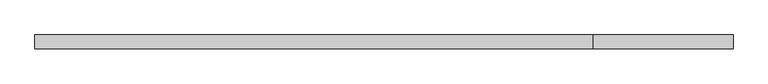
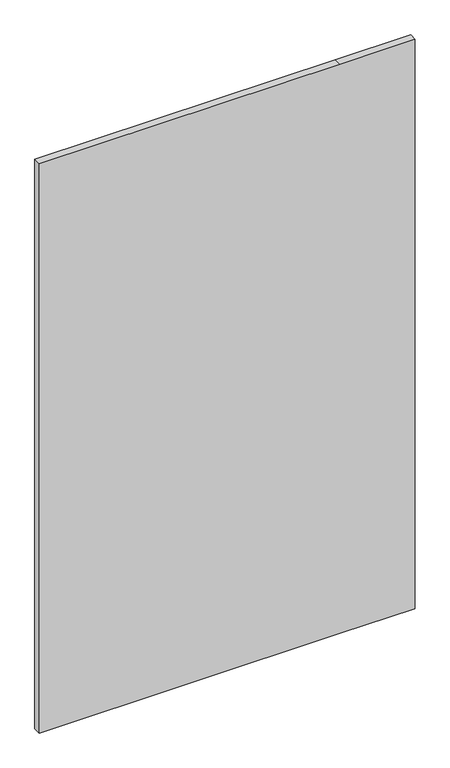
"""IFC4 building model written with IfcOpenShell, lengths in millimetres: plate geometry, Системная панель : С остеклением."""

from ifc_helpers import new_model, si_unit, frame, origin, place, context, project, spatial, polyline, outline, extrude, source, transform, mapped, element, save


def plate_3d0267f8(model_context):
    return source(origin(), model_context, "Body", "SweptSolid", [
        extrude(outline(polyline([(0.0, -625.0), (0.0, 375.0), (0.0, 625.0), (2000.0, 625.0), (2000.0, 375.0), (2000.0, -625.0), (0.0, -625.0)])), frame((0.0, 24.5, 0.0), z_axis=(0.0, 1.0, 0.0), x_axis=(0.0, 0.0, 1.0)), (0.0, 0.0, 1.0), 25.0),
    ])


if __name__ == "__main__":
    model = new_model("IFC4")
    model_context = context("Model", 3, world=origin())
    ifc_project = project(units=[si_unit("LENGTHUNIT", "METRE", prefix="MILLI")], contexts=[model_context])
    site = spatial("IfcSite", under=ifc_project)
    building = spatial("IfcBuilding", under=site)
    placement = place(None, origin())
    plate_shape = plate_3d0267f8(model_context)
    element("IfcPlate", 1, ObjectType="Системная панель : С остеклением", at=placement, inside=building, context=model_context, shape_type="MappedRepresentation", body=[
        mapped(plate_shape, transform((0.0, 0.0, 0.0), x_axis=(1.0, 0.0, 0.0), y_axis=(0.0, 1.0, 0.0), z_axis=(0.0, 0.0, 1.0))),
    ])
    save(model, "model.ifc")
